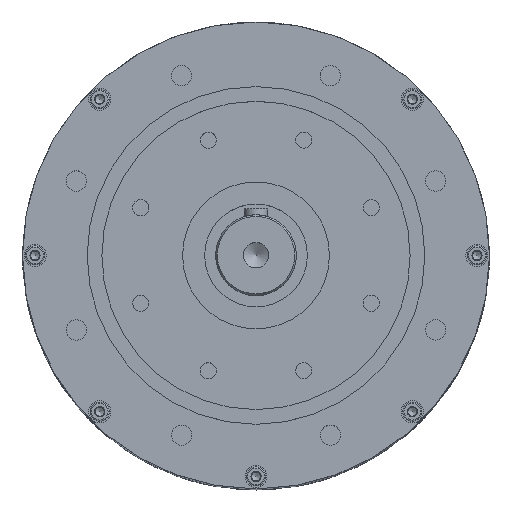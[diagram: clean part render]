
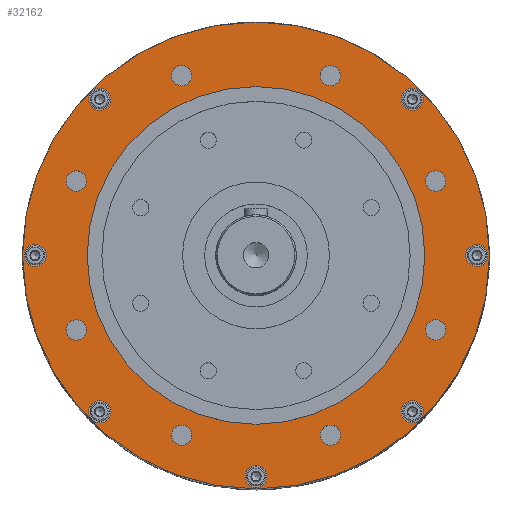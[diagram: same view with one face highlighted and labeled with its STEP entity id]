
A CAD part, top view. The second image highlights one B-rep face of the part: STEP entity #32162.
In plain terms, the highlighted planar face has unit normal (0, 0, 1).
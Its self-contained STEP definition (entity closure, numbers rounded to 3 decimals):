
#2587=PLANE('',#34318);
#3457=LINE('',#46483,#5247);
#5247=VECTOR('',#37698,0.31);
#7773=FACE_BOUND('',#10966,.T.);
#7774=FACE_BOUND('',#10967,.T.);
#7775=FACE_BOUND('',#10968,.T.);
#7776=FACE_BOUND('',#10969,.T.);
#7777=FACE_BOUND('',#10970,.T.);
#7778=FACE_BOUND('',#10971,.T.);
#7779=FACE_BOUND('',#10972,.T.);
#7780=FACE_BOUND('',#10973,.T.);
#7781=FACE_BOUND('',#10974,.T.);
#7782=FACE_BOUND('',#10975,.T.);
#7783=FACE_BOUND('',#10976,.T.);
#7784=FACE_BOUND('',#10977,.T.);
#7785=FACE_BOUND('',#10978,.T.);
#7786=FACE_BOUND('',#10979,.T.);
#7787=FACE_BOUND('',#10980,.T.);
#7788=FACE_BOUND('',#10981,.T.);
#7789=FACE_BOUND('',#10982,.T.);
#10966=EDGE_LOOP('',(#22885));
#10967=EDGE_LOOP('',(#22886));
#10968=EDGE_LOOP('',(#22887));
#10969=EDGE_LOOP('',(#22888));
#10970=EDGE_LOOP('',(#22889));
#10971=EDGE_LOOP('',(#22890));
#10972=EDGE_LOOP('',(#22891));
#10973=EDGE_LOOP('',(#22892));
#10974=EDGE_LOOP('',(#22893));
#10975=EDGE_LOOP('',(#22894));
#10976=EDGE_LOOP('',(#22895));
#10977=EDGE_LOOP('',(#22896));
#10978=EDGE_LOOP('',(#22897));
#10979=EDGE_LOOP('',(#22898));
#10980=EDGE_LOOP('',(#22899));
#10981=EDGE_LOOP('',(#22900,#22901,#22902));
#10982=EDGE_LOOP('',(#22903));
#13608=CIRCLE('',#34249,6.918);
#13609=CIRCLE('',#34251,6.918);
#13610=CIRCLE('',#34253,6.918);
#13611=CIRCLE('',#34255,6.918);
#13612=CIRCLE('',#34257,6.918);
#13613=CIRCLE('',#34259,6.918);
#13614=CIRCLE('',#34261,6.918);
#13615=CIRCLE('',#34263,6.918);
#13618=CIRCLE('',#34268,7.5);
#13621=CIRCLE('',#34274,7.5);
#13624=CIRCLE('',#34280,7.5);
#13627=CIRCLE('',#34286,7.5);
#13630=CIRCLE('',#34292,7.5);
#13633=CIRCLE('',#34298,7.5);
#13636=CIRCLE('',#34304,7.5);
#13637=CIRCLE('',#34307,115.);
#13642=CIRCLE('',#34317,159.);
#15096=VERTEX_POINT('',#46481);
#15097=VERTEX_POINT('',#46482);
#15136=VERTEX_POINT('',#46610);
#15137=VERTEX_POINT('',#46613);
#15138=VERTEX_POINT('',#46616);
#15139=VERTEX_POINT('',#46619);
#15140=VERTEX_POINT('',#46622);
#15141=VERTEX_POINT('',#46625);
#15142=VERTEX_POINT('',#46628);
#15143=VERTEX_POINT('',#46631);
#15146=VERTEX_POINT('',#46639);
#15149=VERTEX_POINT('',#46648);
#15152=VERTEX_POINT('',#46657);
#15155=VERTEX_POINT('',#46666);
#15158=VERTEX_POINT('',#46675);
#15161=VERTEX_POINT('',#46684);
#15164=VERTEX_POINT('',#46693);
#15165=VERTEX_POINT('',#46697);
#18275=EDGE_CURVE('',#15096,#15097,#3457,.T.);
#18320=EDGE_CURVE('',#15136,#15136,#13608,.T.);
#18321=EDGE_CURVE('',#15137,#15137,#13609,.T.);
#18322=EDGE_CURVE('',#15138,#15138,#13610,.T.);
#18323=EDGE_CURVE('',#15139,#15139,#13611,.T.);
#18324=EDGE_CURVE('',#15140,#15140,#13612,.T.);
#18325=EDGE_CURVE('',#15141,#15141,#13613,.T.);
#18326=EDGE_CURVE('',#15142,#15142,#13614,.T.);
#18327=EDGE_CURVE('',#15143,#15143,#13615,.T.);
#18330=EDGE_CURVE('',#15146,#15146,#13618,.T.);
#18333=EDGE_CURVE('',#15149,#15149,#13621,.T.);
#18336=EDGE_CURVE('',#15152,#15152,#13624,.T.);
#18339=EDGE_CURVE('',#15155,#15155,#13627,.T.);
#18342=EDGE_CURVE('',#15158,#15158,#13630,.T.);
#18345=EDGE_CURVE('',#15161,#15161,#13633,.T.);
#18348=EDGE_CURVE('',#15164,#15164,#13636,.T.);
#18349=EDGE_CURVE('',#15165,#15165,#13637,.T.);
#18354=EDGE_CURVE('',#15096,#15096,#13642,.T.);
#22885=ORIENTED_EDGE('',*,*,#18320,.T.);
#22886=ORIENTED_EDGE('',*,*,#18321,.T.);
#22887=ORIENTED_EDGE('',*,*,#18322,.T.);
#22888=ORIENTED_EDGE('',*,*,#18323,.T.);
#22889=ORIENTED_EDGE('',*,*,#18324,.T.);
#22890=ORIENTED_EDGE('',*,*,#18325,.T.);
#22891=ORIENTED_EDGE('',*,*,#18326,.T.);
#22892=ORIENTED_EDGE('',*,*,#18327,.T.);
#22893=ORIENTED_EDGE('',*,*,#18330,.T.);
#22894=ORIENTED_EDGE('',*,*,#18333,.T.);
#22895=ORIENTED_EDGE('',*,*,#18336,.T.);
#22896=ORIENTED_EDGE('',*,*,#18339,.T.);
#22897=ORIENTED_EDGE('',*,*,#18342,.T.);
#22898=ORIENTED_EDGE('',*,*,#18345,.T.);
#22899=ORIENTED_EDGE('',*,*,#18348,.T.);
#22900=ORIENTED_EDGE('',*,*,#18354,.T.);
#22901=ORIENTED_EDGE('',*,*,#18275,.T.);
#22902=ORIENTED_EDGE('',*,*,#18275,.F.);
#22903=ORIENTED_EDGE('',*,*,#18349,.F.);
#32162=ADVANCED_FACE('',(#7773,#7774,#7775,#7776,#7777,#7778,#7779,#7780,
#7781,#7782,#7783,#7784,#7785,#7786,#7787,#7788,#7789),#2587,.T.);
#34249=AXIS2_PLACEMENT_3D('',#46611,#37803,#37804);
#34251=AXIS2_PLACEMENT_3D('',#46614,#37807,#37808);
#34253=AXIS2_PLACEMENT_3D('',#46617,#37811,#37812);
#34255=AXIS2_PLACEMENT_3D('',#46620,#37815,#37816);
#34257=AXIS2_PLACEMENT_3D('',#46623,#37819,#37820);
#34259=AXIS2_PLACEMENT_3D('',#46626,#37823,#37824);
#34261=AXIS2_PLACEMENT_3D('',#46629,#37827,#37828);
#34263=AXIS2_PLACEMENT_3D('',#46632,#37831,#37832);
#34268=AXIS2_PLACEMENT_3D('',#46640,#37841,#37842);
#34274=AXIS2_PLACEMENT_3D('',#46649,#37853,#37854);
#34280=AXIS2_PLACEMENT_3D('',#46658,#37865,#37866);
#34286=AXIS2_PLACEMENT_3D('',#46667,#37877,#37878);
#34292=AXIS2_PLACEMENT_3D('',#46676,#37889,#37890);
#34298=AXIS2_PLACEMENT_3D('',#46685,#37901,#37902);
#34304=AXIS2_PLACEMENT_3D('',#46694,#37913,#37914);
#34307=AXIS2_PLACEMENT_3D('',#46698,#37919,#37920);
#34317=AXIS2_PLACEMENT_3D('',#46712,#37939,#37940);
#34318=AXIS2_PLACEMENT_3D('',#46713,#37941,#37942);
#37698=DIRECTION('',(0.,-1.,0.));
#37803=DIRECTION('center_axis',(0.,0.,-1.));
#37804=DIRECTION('ref_axis',(0.707,0.707,0.));
#37807=DIRECTION('center_axis',(0.,0.,-1.));
#37808=DIRECTION('ref_axis',(0.,1.,0.));
#37811=DIRECTION('center_axis',(0.,0.,-1.));
#37812=DIRECTION('ref_axis',(-0.707,0.707,0.));
#37815=DIRECTION('center_axis',(0.,0.,-1.));
#37816=DIRECTION('ref_axis',(-1.,0.,0.));
#37819=DIRECTION('center_axis',(0.,0.,-1.));
#37820=DIRECTION('ref_axis',(-0.707,-0.707,0.));
#37823=DIRECTION('center_axis',(0.,0.,-1.));
#37824=DIRECTION('ref_axis',(0.,-1.,0.));
#37827=DIRECTION('center_axis',(0.,0.,-1.));
#37828=DIRECTION('ref_axis',(0.707,-0.707,0.));
#37831=DIRECTION('center_axis',(0.,0.,-1.));
#37832=DIRECTION('ref_axis',(1.,0.,0.));
#37841=DIRECTION('center_axis',(0.,0.,-1.));
#37842=DIRECTION('ref_axis',(0.,1.,0.));
#37853=DIRECTION('center_axis',(0.,0.,-1.));
#37854=DIRECTION('ref_axis',(-0.707,0.707,0.));
#37865=DIRECTION('center_axis',(0.,0.,-1.));
#37866=DIRECTION('ref_axis',(-1.,0.,0.));
#37877=DIRECTION('center_axis',(0.,0.,-1.));
#37878=DIRECTION('ref_axis',(-0.707,-0.707,0.));
#37889=DIRECTION('center_axis',(0.,0.,-1.));
#37890=DIRECTION('ref_axis',(0.,-1.,0.));
#37901=DIRECTION('center_axis',(0.,0.,-1.));
#37902=DIRECTION('ref_axis',(0.707,-0.707,0.));
#37913=DIRECTION('center_axis',(0.,0.,-1.));
#37914=DIRECTION('ref_axis',(1.,0.,0.));
#37919=DIRECTION('center_axis',(0.,0.,1.));
#37920=DIRECTION('ref_axis',(1.,0.,0.));
#37939=DIRECTION('center_axis',(0.,0.,1.));
#37940=DIRECTION('ref_axis',(1.,0.,0.));
#37941=DIRECTION('center_axis',(0.,0.,1.));
#37942=DIRECTION('ref_axis',(0.,-1.,0.));
#46481=CARTESIAN_POINT('',(0.,159.,1.));
#46482=CARTESIAN_POINT('',(0.,158.69,1.));
#46483=CARTESIAN_POINT('',(0.,161.,1.));
#46610=CARTESIAN_POINT('',(-45.814,127.305,1.));
#46611=CARTESIAN_POINT('Origin',(-50.706,122.414,1.));
#46613=CARTESIAN_POINT('',(-122.414,57.623,1.));
#46614=CARTESIAN_POINT('Origin',(-122.414,50.706,1.));
#46616=CARTESIAN_POINT('',(-127.305,-45.814,1.));
#46617=CARTESIAN_POINT('Origin',(-122.414,-50.706,1.));
#46619=CARTESIAN_POINT('',(-57.623,-122.414,1.));
#46620=CARTESIAN_POINT('Origin',(-50.706,-122.414,1.));
#46622=CARTESIAN_POINT('',(45.814,-127.305,1.));
#46623=CARTESIAN_POINT('Origin',(50.706,-122.414,1.));
#46625=CARTESIAN_POINT('',(122.414,-57.623,1.));
#46626=CARTESIAN_POINT('Origin',(122.414,-50.706,1.));
#46628=CARTESIAN_POINT('',(127.305,45.814,1.));
#46629=CARTESIAN_POINT('Origin',(122.414,50.706,1.));
#46631=CARTESIAN_POINT('',(57.623,122.414,1.));
#46632=CARTESIAN_POINT('Origin',(50.706,122.414,1.));
#46639=CARTESIAN_POINT('',(-106.42,113.92,1.));
#46640=CARTESIAN_POINT('Origin',(-106.42,106.42,1.));
#46648=CARTESIAN_POINT('',(-155.803,5.303,1.));
#46649=CARTESIAN_POINT('Origin',(-150.5,0.,1.));
#46657=CARTESIAN_POINT('',(-113.92,-106.42,1.));
#46658=CARTESIAN_POINT('Origin',(-106.42,-106.42,1.));
#46666=CARTESIAN_POINT('',(-5.303,-155.803,1.));
#46667=CARTESIAN_POINT('Origin',(0.,-150.5,1.));
#46675=CARTESIAN_POINT('',(106.42,-113.92,1.));
#46676=CARTESIAN_POINT('Origin',(106.42,-106.42,1.));
#46684=CARTESIAN_POINT('',(155.803,-5.303,1.));
#46685=CARTESIAN_POINT('Origin',(150.5,0.,1.));
#46693=CARTESIAN_POINT('',(113.92,106.42,1.));
#46694=CARTESIAN_POINT('Origin',(106.42,106.42,1.));
#46697=CARTESIAN_POINT('',(0.,-115.,1.));
#46698=CARTESIAN_POINT('Origin',(0.,0.,1.));
#46712=CARTESIAN_POINT('Origin',(0.,0.,1.));
#46713=CARTESIAN_POINT('Origin',(0.,-115.,1.));
